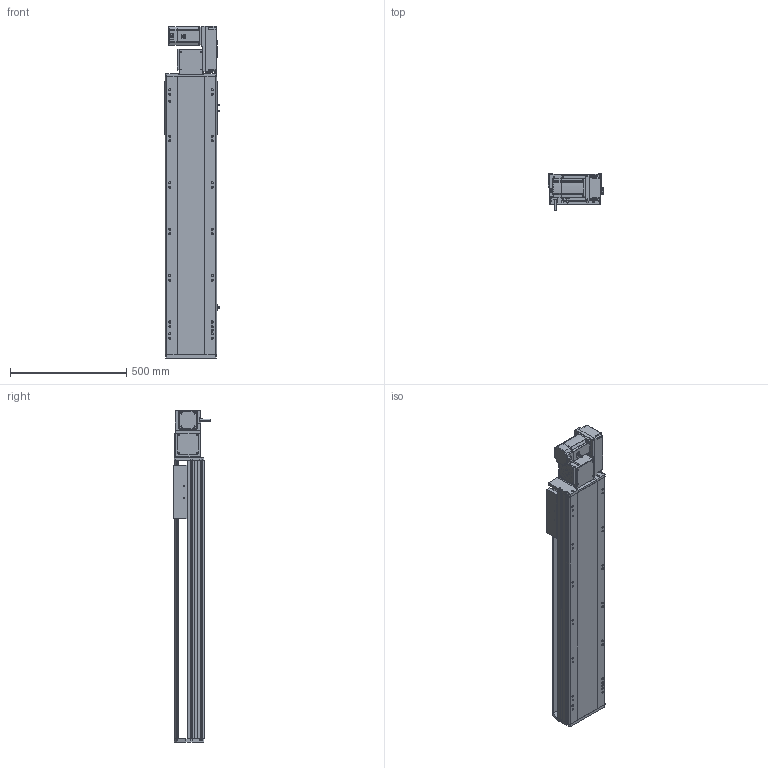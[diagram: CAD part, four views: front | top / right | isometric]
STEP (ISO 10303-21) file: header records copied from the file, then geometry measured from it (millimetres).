
FILE_DESCRIPTION (( 'STEP AP214' ), '1' );
FILE_NAME ('RTB22S-XX-850-R-M75-C4.STEP', '2025-12-12T07:18:37', ( '' ), ( '' ), 'SwSTEP 2.0', 'SolidWorks 2018', '' );
FILE_SCHEMA (( 'AUTOMOTIVE_DESIGN' ));
Length unit declared in the file: millimetre
Products named in the file (14): RTB22S-GY-005P^RTB22S-R-々湍釱蚾饜_RTB22S-XX-XX-R-M75-C4; 750W萇儂^RTB22S-XX-XX-R-M75-C4; RTB22S-GY-008-M75--萇儂啣^RTB22S-R-々湍釱蚾饜_RTB22S-XX-XX-R-M75-C4; RTB22S-GY-017P^RTB22S-R-々湍釱蚾饜_RTB22S-XX-XX-R-M75-C4; RTB22S-L-011菁釱^RTB22S-XX-XX-R-M75-C4; RTH22-GY-013外置感应片^RTB22S-XX-XX-R-M75-C4; RTB22S-GY-007奻裔^RTB22S-XX-XX-R-M75-C4; OMRON EE-SX672 传感器^RTB22S-XX-XX-R-M75-C4; RTB22S-XX-850-R-M75-C4; RTB22S-GY-018P^RTB22S-R-々湍釱蚾饜_RTB22S-XX-XX-R-M75-C4; RTB22S-L-004賑釱^RTB22S-XX-XX-R-M75-C4; RTB22S-GY-014--々湍釱^RTB22S-R-々湍釱蚾饜_RTB22S-XX-XX-R-M75-C4; RTB22S-R-々湍釱蚾饜^RTB22S-XX-XX-R-M75-C4; RTB22S-GY-001耜裔^RTB22S-XX-XX-R-M75-C4
Assembly tree (16 placements, depth 3):
  RTB22S-XX-850-R-M75-C4
    RTB22S-L-011菁釱^RTB22S-XX-XX-R-M75-C4
    RTB22S-GY-001耜裔^RTB22S-XX-XX-R-M75-C4
    750W萇儂^RTB22S-XX-XX-R-M75-C4
    RTB22S-GY-007奻裔^RTB22S-XX-XX-R-M75-C4
    RTB22S-L-004賑釱^RTB22S-XX-XX-R-M75-C4
    RTH22-GY-013外置感应片^RTB22S-XX-XX-R-M75-C4
    OMRON EE-SX672 传感器^RTB22S-XX-XX-R-M75-C4  x3
    RTB22S-R-々湍釱蚾饜^RTB22S-XX-XX-R-M75-C4
      RTB22S-GY-014--々湍釱^RTB22S-R-々湍釱蚾饜_RTB22S-XX-XX-R-M75-C4
      RTB22S-GY-017P^RTB22S-R-々湍釱蚾饜_RTB22S-XX-XX-R-M75-C4  x2
      RTB22S-GY-005P^RTB22S-R-々湍釱蚾饜_RTB22S-XX-XX-R-M75-C4
      RTB22S-GY-008-M75--萇儂啣^RTB22S-R-々湍釱蚾饜_RTB22S-XX-XX-R-M75-C4
      RTB22S-GY-018P^RTB22S-R-々湍釱蚾饜_RTB22S-XX-XX-R-M75-C4
Bounding box: 238.5 x 162.7 x 1429 mm (x, y, z)
Volume: 19537872.7 mm3; surface area: 2042747.8 mm2
Topology: 15 solids, 15 shells, 1965 faces, 5336 edges, 3422 vertices
Faces by surface type: plane 913, cylinder 610, bspline 296, cone 134, sphere 8, torus 4
Entity records: 52110 total; most frequent: CARTESIAN_POINT 15024, ORIENTED_EDGE 7468, DIRECTION 7168, EDGE_CURVE 3734, AXIS2_PLACEMENT_3D 2522, VERTEX_POINT 2426, VECTOR 2124, LINE 2124
